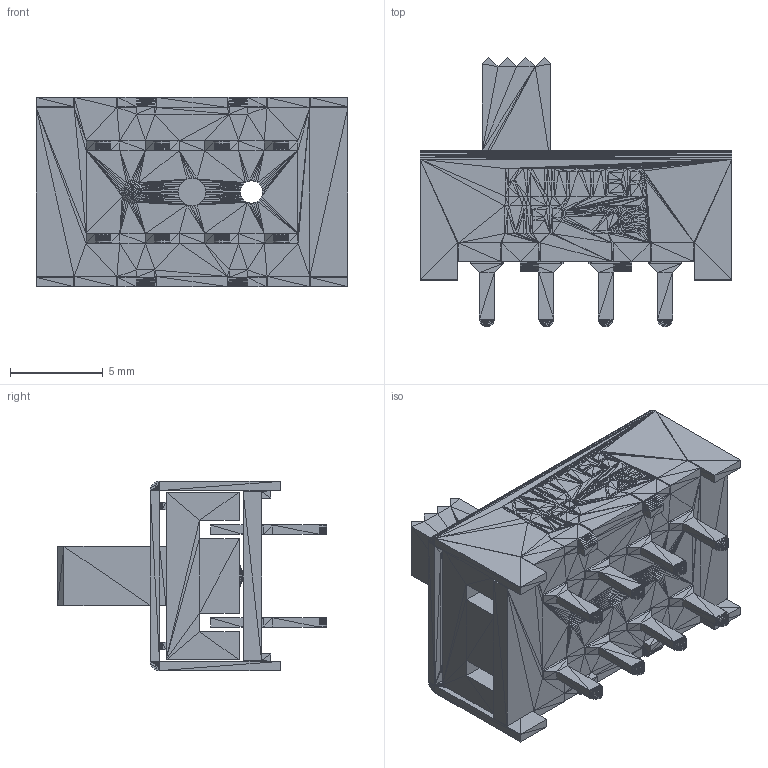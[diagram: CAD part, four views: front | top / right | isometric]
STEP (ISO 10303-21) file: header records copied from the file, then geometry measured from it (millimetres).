
FILE_DESCRIPTION(/* description */ (''),/* implementation_level */ '2;1');
FILE_NAME(/* name */ 'mfp230.stp',/* time_stamp */ '2017-9-5T16:18:17.9484507',/* author */ ('knitter-switch'),/* organization */ (''),/* preprocessor_version */ 'InStep v2',/* originating_system */ 'InStep V2.3',/* authorisation */ '');
FILE_SCHEMA (('AUTOMOTIVE_DESIGN { 1 0 10303 214 1 1 1 1 }'));
Length unit declared in the file: centimetre
Products named in the file (1): None
Bounding box: 16.8 x 14.5 x 10.2 mm (x, y, z)
Volume: 718.8 mm3; surface area: 1832.9 mm2
Topology: 2 solids, 2 shells, 4372 faces, 6558 edges, 2128 vertices
Faces by surface type: plane 4372
Entity records: 63870 total; most frequent: ORIENTED_EDGE 13116, DIRECTION 7928, LINE 6558, EDGE_CURVE 6558, AXIS2_PLACEMENT_3D 4373, EDGE_LOOP 4372, FACE_OUTER_BOUND 4372, PLANE 4372
